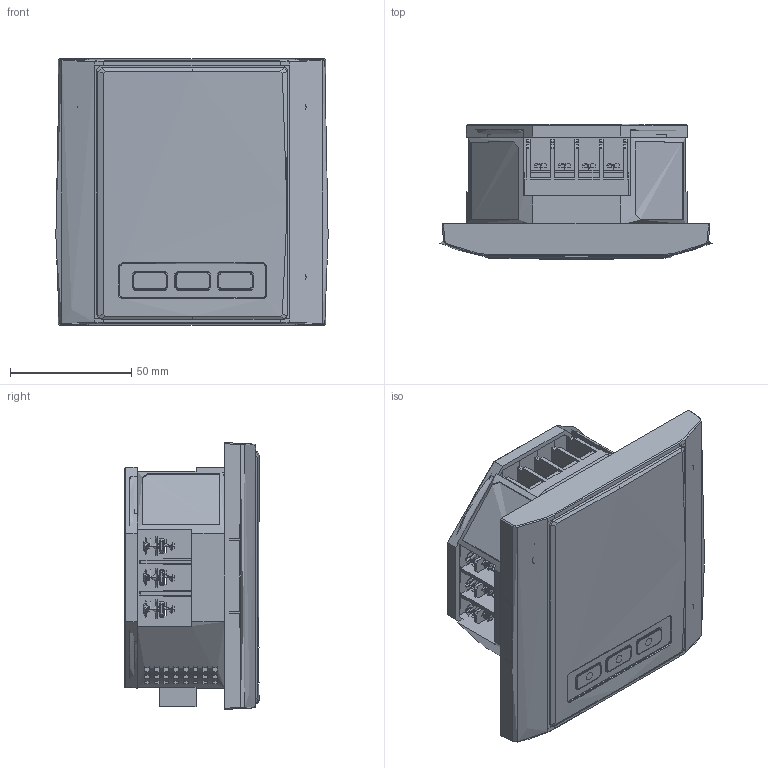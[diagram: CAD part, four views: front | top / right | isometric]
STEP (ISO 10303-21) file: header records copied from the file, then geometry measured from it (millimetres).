
FILE_DESCRIPTION(/* description */ (''),/* implementation_level */ '2;1');
FILE_NAME(/* name */ 'A7O2UR~5',/* time_stamp */ '2016-07-06T14:33:25+09:00',/* author */ (''),/* organization */ (''),/* preprocessor_version */ 'ST-DEVELOPER v15',/* originating_system */ '',/* authorisation */ '');
FILE_SCHEMA (('CONFIG_CONTROL_DESIGN'));
Products named in the file (29): Document; ct; header-2208; me-030-762-05; pcb-power; screw-3x10-pan; 2500-double-side-tape; cap-module; mc-100-762-05; screw-3x6-pan; bus-bar; accura2500-membrane; accura2500-cover-front2; insert-m3-80; insert-unified08-32; accura2500-cover-front; 블록 02; accura2500-pcb-display1; fnd-kpsc56-123; STS1102S (L=7); accura2500-pcb-display; socket-2207; sensor-ir; accura2500-window-display; screw-special-m4x09; 블록 01; Washer M4; screw-3x6-flt; accura2500-cover-rear
Assembly tree (70 placements, depth 4):
  Document
    ct
    header-2208
    me-030-762-05
    pcb-power
    screw-3x10-pan  x4
    2500-double-side-tape
    cap-module
    mc-100-762-05
    screw-3x6-pan  x6
    bus-bar  x3
    accura2500-membrane
    accura2500-cover-front2
      insert-m3-80  x4
      insert-unified08-32  x4
      accura2500-cover-front
        블록 02
    accura2500-pcb-display1
      fnd-kpsc56-123  x12
      STS1102S (L=7)  x3
      accura2500-pcb-display
      socket-2207
      sensor-ir
    accura2500-window-display
    screw-special-m4x09  x6
      블록 01
    Washer M4  x6
    screw-3x6-flt  x4
    accura2500-cover-rear
Bounding box: 112.2 x 55.5 x 110 mm (x, y, z)
Topology: 46 solids, 97 shells, 6966 faces, 18567 edges, 11863 vertices
Faces by surface type: bspline 4060, plane 2906
Entity records: 307115 total; most frequent: CARTESIAN_POINT 242705, ORIENTED_EDGE 19266, EDGE_CURVE 9930, B_SPLINE_CURVE_WITH_KNOTS 7331, VERTEX_POINT 6323, EDGE_LOOP 4173, ADVANCED_FACE 3683, FACE_OUTER_BOUND 3683
